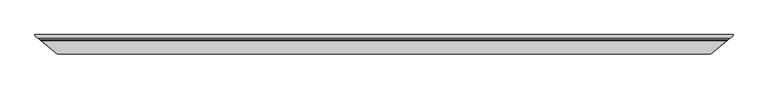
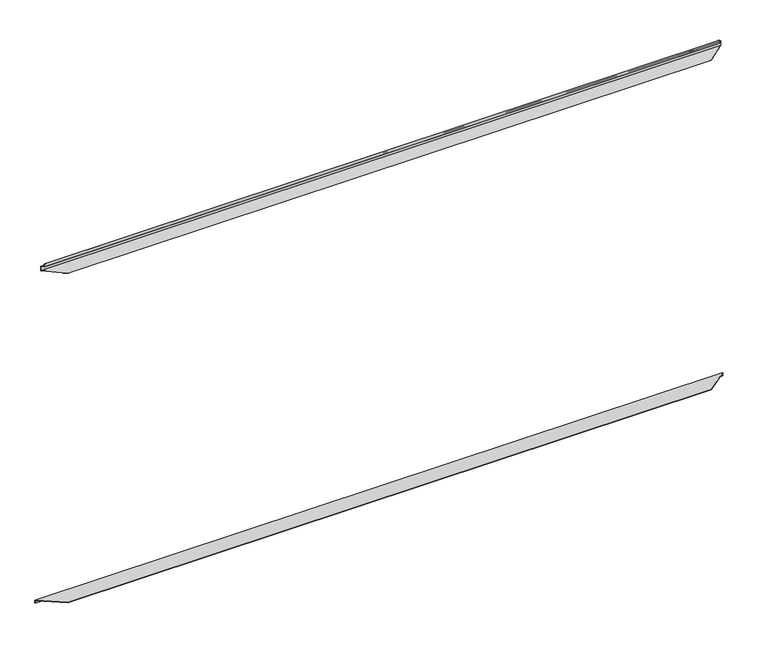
"""IFC4 building model written with IfcOpenShell, lengths in millimetres: plate geometry, Trimo_Qbiss Screen_Wall Opening Trims-HORIZONTAL : HR - B."""

import ifcopenshell
import ifcopenshell.guid

model = None  # the IFC model being written
_history = None  # IfcOwnerHistory: only IFC2X3 demands one
_inside = {}  # id of a spatial element -> (the spatial element, [elements in it])
_under = {}  # id of a project, library or spatial element -> (it, [spatial elements below it])
_declared = {}  # id of a project -> (the project, [libraries it declares])
_typed = {}  # id of a type object -> (the type object, [elements of that type])
_made_of = {}  # id of a material, layer set ... -> (it, [elements and type objects made of it])


def new_model(schema):
    """Start an empty IFC model of exactly this schema.

    Asked for "IFC4X3", IfcOpenShell would pick the latest addendum, in which some entities
    have other attributes; the version numbers below select the first issue.
    IFC2X3 requires an IfcOwnerHistory on every rooted entity: one is made here for all.
    """
    global model, _history
    if schema == "IFC4X3":
        model = ifcopenshell.file(schema_version=(4, 3, 0, 0))
    else:
        model = ifcopenshell.file(schema=schema)
    _inside.clear()
    _under.clear()
    _declared.clear()
    _typed.clear()
    _made_of.clear()
    _history = None
    if model.schema == "IFC2X3":
        org = make("IfcOrganization", Name="unknown")
        user = make(
            "IfcPersonAndOrganization",
            ThePerson=make("IfcPerson", FamilyName="unknown"),
            TheOrganization=org,
        )
        app = make(
            "IfcApplication",
            ApplicationDeveloper=org,
            Version="unknown",
            ApplicationFullName="unknown",
            ApplicationIdentifier="unknown",
        )
        _history = make(
            "IfcOwnerHistory",
            OwningUser=user,
            OwningApplication=app,
            ChangeAction="ADDED",
            CreationDate=0,
        )
    return model


def make(cls, **values):
    """One entity of the class cls with the attributes given. An attribute that is None is left unset."""
    return model.create_entity(
        cls, **{name: value for name, value in values.items() if value is not None}
    )


def rooted(cls, **values):
    """An entity with a GlobalId (a new one), such as an element, a storey or a relation."""
    return make(cls, GlobalId=ifcopenshell.guid.new(), OwnerHistory=_history, **values)


def si_unit(unit_type, name, prefix=None):
    """IfcSIUnit, for example si_unit("LENGTHUNIT", "METRE", prefix="MILLI")."""
    return make("IfcSIUnit", UnitType=unit_type, Prefix=prefix, Name=name)


def assignment(units):
    """IfcUnitAssignment: the units of a project."""
    return None if units is None else make("IfcUnitAssignment", Units=units)


def point(xyz):
    """IfcCartesianPoint."""
    return None if xyz is None else make("IfcCartesianPoint", Coordinates=xyz)


def direction(xyz):
    """IfcDirection."""
    return None if xyz is None else make("IfcDirection", DirectionRatios=xyz)


def frame(location, z_axis=None, x_axis=None):
    """IfcAxis2Placement3D, a coordinate frame: its origin and axes. An axis left out is left unset."""
    return make(
        "IfcAxis2Placement3D",
        Location=point(location),
        Axis=direction(z_axis),
        RefDirection=direction(x_axis),
    )


def origin():
    """The frame at (0, 0, 0) with its axes left unset."""
    return frame((0.0, 0.0, 0.0))


def place(relative_to, where):
    """IfcLocalPlacement: puts the frame where relative to a parent placement (None: the world)."""
    return make(
        "IfcLocalPlacement", PlacementRelTo=relative_to, RelativePlacement=where
    )


def context(
    kind, dimensions, precision=None, world=None, true_north=None, identifier=None
):
    """IfcGeometricRepresentationContext, for example the 3D "Model" context."""
    return make(
        "IfcGeometricRepresentationContext",
        ContextIdentifier=identifier,
        ContextType=kind,
        CoordinateSpaceDimension=dimensions,
        Precision=precision,
        WorldCoordinateSystem=world,
        TrueNorth=true_north,
    )


def project(units=None, contexts=None):
    """IfcProject with its units and contexts."""
    return rooted(
        "IfcProject",
        Name="project",
        RepresentationContexts=contexts,
        UnitsInContext=assignment(units),
    )


def spatial(cls, under=None, at=None, **own):
    """A site, building, storey or space (cls), placed at a placement, below another one or the project."""
    s = rooted(cls, ObjectPlacement=at, **own)
    if under is not None:
        _under.setdefault(under.id(), (under, []))[1].append(s)
    return s


def polyline(points):
    """IfcPolyline through the points."""
    return make("IfcPolyline", Points=[point(p) for p in points])


def outline(outer, holes=None, kind="AREA"):
    """IfcArbitraryClosedProfileDef: a profile drawn as a closed curve; with holes, ...WithVoids."""
    if holes is None:
        return make("IfcArbitraryClosedProfileDef", ProfileType=kind, OuterCurve=outer)
    return make(
        "IfcArbitraryProfileDefWithVoids",
        ProfileType=kind,
        OuterCurve=outer,
        InnerCurves=holes,
    )


def extrude(swept, where, along, depth):
    """IfcExtrudedAreaSolid: the profile swept, set in the frame where, extruded along a direction by depth."""
    return make(
        "IfcExtrudedAreaSolid",
        SweptArea=swept,
        Position=where,
        ExtrudedDirection=direction(along),
        Depth=depth,
    )


def faces_of(points, faces, orient=None, outer=None):
    """IfcFace entities. A face is a list of loops; a loop is a list of indices into points, from 0.

    orient and outer hold one flag for each loop. By default every Orientation is true, the
    first loop of a face is its IfcFaceOuterBound and the others are IfcFaceBound.
    """
    made = []
    for i, loops in enumerate(faces):
        bounds = []
        for j, loop in enumerate(loops):
            is_outer = j == 0 if outer is None else outer[i][j]
            bounds.append(
                make(
                    "IfcFaceOuterBound" if is_outer else "IfcFaceBound",
                    Bound=make("IfcPolyLoop", Polygon=[points[k] for k in loop]),
                    Orientation=True if orient is None else orient[i][j],
                )
            )
        made.append(make("IfcFace", Bounds=bounds))
    return made


def faceted_brep(points, faces, orient=None, outer=None, voids=None):
    """IfcFacetedBrep: a solid bounded by flat faces; with voids (closed shells), ...WithVoids."""
    shared = [point(p) for p in points]
    hull = make("IfcClosedShell", CfsFaces=faces_of(shared, faces, orient, outer))
    if voids is None:
        return make("IfcFacetedBrep", Outer=hull)
    return make(
        "IfcFacetedBrepWithVoids",
        Outer=hull,
        Voids=[
            make(cls, CfsFaces=faces_of(shared, fs, o, b)) for cls, fs, o, b in voids
        ],
    )


def shape(context_of_items, identifier, shape_type, items):
    """IfcShapeRepresentation: the items that make up one representation, for example the "Body"."""
    return make(
        "IfcShapeRepresentation",
        ContextOfItems=context_of_items,
        RepresentationIdentifier=identifier,
        RepresentationType=shape_type,
        Items=items,
    )


def source(mapping_origin, context_of_items, identifier, shape_type, items):
    """IfcRepresentationMap: a shape defined once, which mapped items show again and again."""
    return make(
        "IfcRepresentationMap",
        MappingOrigin=mapping_origin,
        MappedRepresentation=shape(context_of_items, identifier, shape_type, items),
    )


def transform(
    local_origin,
    x_axis=None,
    y_axis=None,
    z_axis=None,
    scale=None,
    scale2=None,
    scale3=None,
    uniform=True,
):
    """IfcCartesianTransformationOperator3D, or its non-uniform kind. x_axis, y_axis, z_axis: its Axis1, 2, 3."""
    if uniform:
        return make(
            "IfcCartesianTransformationOperator3D",
            Axis1=direction(x_axis),
            Axis2=direction(y_axis),
            LocalOrigin=point(local_origin),
            Scale=scale,
            Axis3=direction(z_axis),
        )
    return make(
        "IfcCartesianTransformationOperator3DnonUniform",
        Axis1=direction(x_axis),
        Axis2=direction(y_axis),
        LocalOrigin=point(local_origin),
        Scale=scale,
        Axis3=direction(z_axis),
        Scale2=scale2,
        Scale3=scale3,
    )


def mapped(mapping_source, mapping_target):
    """IfcMappedItem: shows the shape of a source again, moved by a transform."""
    return make(
        "IfcMappedItem", MappingSource=mapping_source, MappingTarget=mapping_target
    )


def made_of(thing, what):
    """Note that an element or type object is made of a material, layer set ...; save() writes the relation."""
    if what is not None:
        _made_of.setdefault(what.id(), (what, []))[1].append(thing)
    return thing


def element(
    cls,
    number,
    at=None,
    inside=None,
    cuts=None,
    type_object=None,
    material=None,
    context=None,
    identifier="Body",
    shape_type=None,
    held_by="IfcProductDefinitionShape",
    body=None,
    shapes=None,
    **own,
):
    """One element of the class cls, such as IfcWall. Its Tag is "e" and its number.

    at: its placement. inside: the storey or other place that contains it. cuts: it is an
    opening in that element (IfcRelVoidsElement). A single representation is given by context,
    identifier, shape_type and body (its items); several are given by shapes. held_by: the class
    of the entity that holds the representations. save() writes the other relations.
    """
    e = rooted(cls, Tag="e%d" % number, ObjectPlacement=at, **own)
    if body is not None:
        shapes = [shape(context, identifier, shape_type, body)]
    if shapes is not None:
        e.Representation = make(held_by, Representations=shapes)
    if inside is not None:
        _inside.setdefault(inside.id(), (inside, []))[1].append(e)
    if cuts is not None:
        rooted(
            "IfcRelVoidsElement", RelatingBuildingElement=cuts, RelatedOpeningElement=e
        )
    if type_object is not None:
        _typed.setdefault(type_object.id(), (type_object, []))[1].append(e)
    return made_of(e, material)


def aggregate(whole, parts):
    """IfcRelAggregates: a whole, such as a stair, and the parts it consists of."""
    return rooted("IfcRelAggregates", RelatingObject=whole, RelatedObjects=parts)


def save(model, path):
    """Write the relations noted so far, then the file.

    IfcRelAggregates (storeys below a building ...), IfcRelContainedInSpatialStructure (elements
    in a storey), IfcRelDefinesByType, IfcRelAssociatesMaterial and IfcRelDeclares: one each for
    every whole, place, type object, material and project.
    """
    for whole, parts in _under.values():
        aggregate(whole, parts)
    for where, things in _inside.values():
        rooted(
            "IfcRelContainedInSpatialStructure",
            RelatedElements=things,
            RelatingStructure=where,
        )
    for kind, things in _typed.values():
        rooted("IfcRelDefinesByType", RelatedObjects=things, RelatingType=kind)
    for what, things in _made_of.values():
        rooted("IfcRelAssociatesMaterial", RelatedObjects=things, RelatingMaterial=what)
    for by, libraries in _declared.values():
        rooted("IfcRelDeclares", RelatingContext=by, RelatedDefinitions=libraries)
    model.write(path)


def plate_de9454b3(model_context):
    return source(origin(), model_context, "Body", "SolidModel", [
        faceted_brep([(4241.8050587, 71.0, 4524.5), (4241.8050587, 71.0, 4487.0), (-4241.8050587, 71.0, 4487.0), (-4241.8050587, 71.0, 4524.5), (4240.6133051, 70.0, 4524.5), (-4240.6133051, 70.0, 4524.5), (4240.6133051, 70.0, 4486.0), (-4240.6133051, 70.0, 4486.0), (4275.1741593, 99.0, 4486.0), (-4275.1741593, 99.0, 4486.0), (4275.1741593, 99.0, 4430.0), (-4275.1741593, 99.0, 4430.0), (4047.5492231, -92.0, 4430.0), (-4047.5492231, -92.0, 4430.0), (4047.5492231, -92.0, 4429.0), (-4047.5492231, -92.0, 4429.0), (4276.3659129, 100.0, 4429.0), (-4276.3659129, 100.0, 4429.0), (4276.3659129, 100.0, 4487.0), (-4276.3659129, 100.0, 4487.0)], [[[0, 1, 2, 3]], [[4, 0, 3, 5]], [[6, 4, 5, 7]], [[8, 6, 7, 9]], [[10, 8, 9, 11]], [[12, 10, 11, 13]], [[14, 12, 13, 15]], [[16, 14, 15, 17]], [[18, 16, 17, 19]], [[1, 18, 19, 2]], [[1, 0, 4, 6, 8, 10, 12, 14, 16, 18]], [[3, 2, 19, 17, 15, 13, 11, 9, 7, 5]]]),
        faceted_brep([(4321.3659129, 138.0, 29.8042278), (4321.3659129, 138.0, 0.0), (4321.3659129, 145.0, 0.0), (4321.3659129, 145.0, 36.234396), (4321.3659129, 137.7594834, 36.8499233), (4321.3659129, 137.7594834, 29.8246745), (-4321.3659129, 145.0, 36.234396), (-4321.3659129, 145.0, 0.0), (-4321.3659129, 138.0, 0.0), (-4321.3659129, 138.0, 29.8042278), (-4321.3659129, 137.7594834, 29.8246745), (-4321.3659129, 137.7594834, 36.8499233), (-4047.5492231, -92.0, 56.3821274), (4047.5492231, -92.0, 56.3821274), (-4047.5492231, -92.0, 49.3568786), (4047.5492231, -92.0, 49.3568786)], [[[0, 1, 2, 3, 4, 5]], [[6, 7, 8, 9, 10, 11]], [[1, 0, 9, 8]], [[2, 1, 8, 7]], [[3, 2, 7, 6]], [[3, 6, 11, 12, 13, 4]], [[12, 14, 15, 13]], [[9, 0, 5, 15, 14, 10]], [[11, 10, 14, 12]], [[5, 4, 13, 15]]]),
        extrude(outline(polyline([(-4241.8050587, 71.0), (-4247.7638267, 76.0), (4247.7638267, 76.0), (4241.8050587, 71.0), (-4241.8050587, 71.0)])), frame((0.0, 0.0, 4488.0), z_axis=(0.0, 0.0, 1.0), x_axis=(1.0, 0.0, 0.0)), (0.0, 0.0, 1.0), 21.0),
    ])


if __name__ == "__main__":
    model = new_model("IFC4")
    model_context = context("Model", 3, world=origin())
    ifc_project = project(units=[si_unit("LENGTHUNIT", "METRE", prefix="MILLI")], contexts=[model_context])
    site = spatial("IfcSite", under=ifc_project)
    building = spatial("IfcBuilding", under=site)
    placement = place(None, origin())
    plate_shape = plate_de9454b3(model_context)
    element("IfcPlate", 1, ObjectType="Trimo_Qbiss Screen_Wall Opening Trims-HORIZONTAL : HR - B", at=placement, inside=building, context=model_context, shape_type="MappedRepresentation", body=[
        mapped(plate_shape, transform((0.0, 0.0, 0.0), x_axis=(1.0, 0.0, 0.0), y_axis=(0.0, 1.0, 0.0), z_axis=(0.0, 0.0, 1.0))),
    ])
    save(model, "model.ifc")
